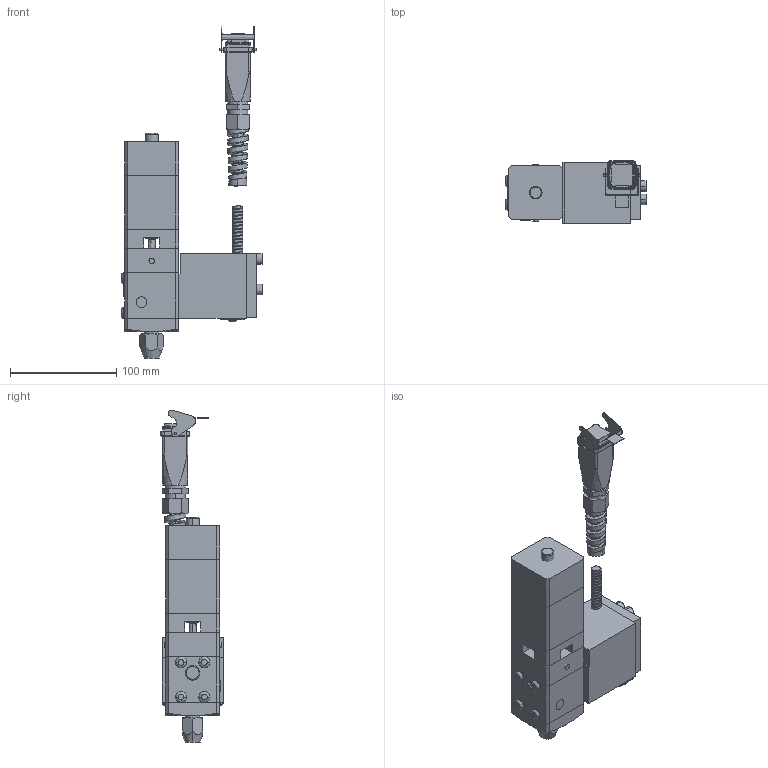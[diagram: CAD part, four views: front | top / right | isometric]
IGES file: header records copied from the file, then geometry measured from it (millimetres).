
Start section:  PTC IGES file: 244909-en-l.igs
Global section: file name: 244909-en-l.igs; native system: Creo Parametric by PTC Inc.; preprocessor: 2019030; author: qusrh3; organization: Unknown; date: 20191231.162505; units: inch
Bounding box: 133.03 x 58.38 x 312.04 mm (x, y, z)
Surface area: 115976.7 mm2 (no closed solid volume)
Topology: 0 solids, 0 shells, 494 faces, 2285 edges, 2285 vertices
Faces by surface type: bspline 249, revolution 245
